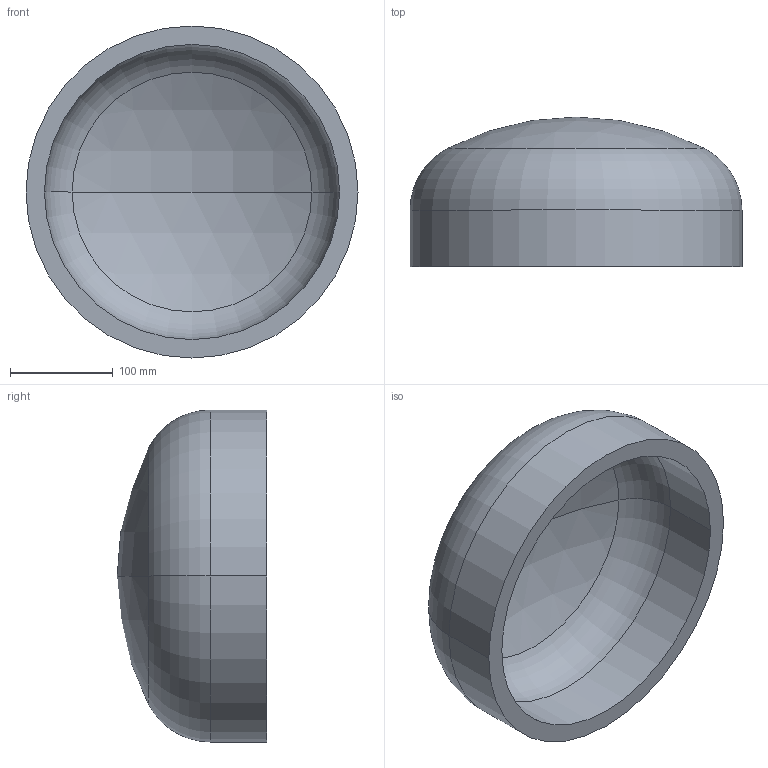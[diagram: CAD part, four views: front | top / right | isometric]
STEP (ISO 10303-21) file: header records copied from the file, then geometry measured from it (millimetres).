
FILE_DESCRIPTION (( 'STEP AP203' ), '1' );
FILE_NAME ('DIN 28013 Korbbogenform_-_Boden DIN 28013 - 323,9 x 55 - I - s=18.step', '2016-07-01T07:44:33', ( '' ), ( '' ), 'SwSTEP 2.0', 'SolidWorks 2013', '' );
FILE_SCHEMA (( 'CONFIG_CONTROL_DESIGN' ));
Length unit declared in the file: millimetre
Products named in the file (1): DIN 28013 Korbbogenform_-_Boden DIN 28013 - 323,9 x 55 - I - s=18
Bounding box: 323.9 x 145.92 x 323.9 mm (x, y, z)
Volume: 2867591.3 mm3; surface area: 336598 mm2
Topology: 1 solids, 1 shells, 13 faces, 24 edges, 14 vertices
Faces by surface type: torus 4, cylinder 4, sphere 4, plane 1
Entity records: 407 total; most frequent: DIRECTION 72, CARTESIAN_POINT 52, ORIENTED_EDGE 48, AXIS2_PLACEMENT_3D 34, EDGE_CURVE 24, CIRCLE 20, VERTEX_POINT 14, EDGE_LOOP 14
